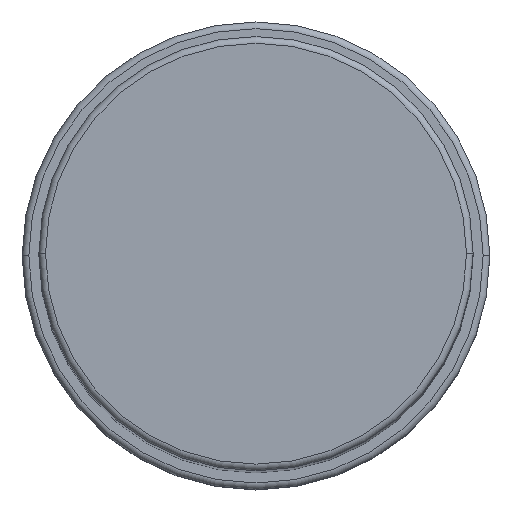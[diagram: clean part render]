
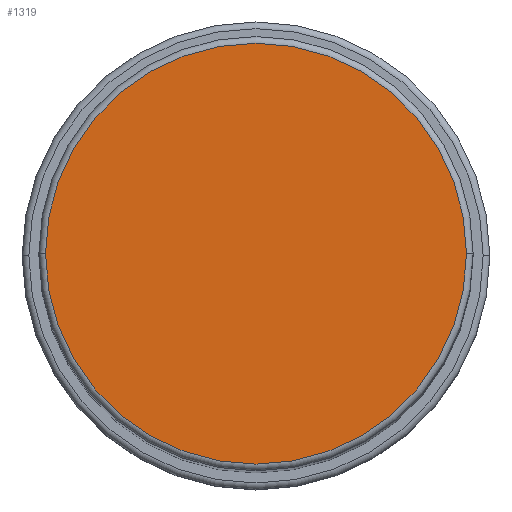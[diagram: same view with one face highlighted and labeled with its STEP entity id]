
A CAD part, top view. The second image highlights one B-rep face of the part: STEP entity #1319.
In plain terms, the highlighted planar face has unit normal (0, 0, 1).
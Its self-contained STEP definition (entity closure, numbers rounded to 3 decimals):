
#54 = CARTESIAN_POINT ( 'NONE',  ( 0., 0., 198. ) ) ;
#108 = FACE_OUTER_BOUND ( 'NONE', #803, .T. ) ;
#198 = CARTESIAN_POINT ( 'NONE',  ( -31.5, 0., 198. ) ) ;
#228 = DIRECTION ( 'NONE',  ( 1., 0., 0. ) ) ;
#240 = ORIENTED_EDGE ( 'NONE', *, *, #944, .T. ) ;
#254 = AXIS2_PLACEMENT_3D ( 'NONE', #581, #1673, #1394 ) ;
#292 = CIRCLE ( 'NONE', #667, 31.5 ) ;
#430 = DIRECTION ( 'NONE',  ( 1., 0., 0. ) ) ;
#445 = PLANE ( 'NONE',  #254 ) ;
#478 = DIRECTION ( 'NONE',  ( 0., 0., 1. ) ) ;
#581 = CARTESIAN_POINT ( 'NONE',  ( 0., 0., 198. ) ) ;
#667 = AXIS2_PLACEMENT_3D ( 'NONE', #1413, #478, #228 ) ;
#803 = EDGE_LOOP ( 'NONE', ( #1021, #240 ) ) ;
#944 = EDGE_CURVE ( 'NONE', #1333, #1104, #1101, .T. ) ;
#1021 = ORIENTED_EDGE ( 'NONE', *, *, #1677, .T. ) ;
#1092 = CARTESIAN_POINT ( 'NONE',  ( 31.5, 0., 198. ) ) ;
#1101 = CIRCLE ( 'NONE', #1285, 31.5 ) ;
#1104 = VERTEX_POINT ( 'NONE', #1092 ) ;
#1285 = AXIS2_PLACEMENT_3D ( 'NONE', #54, #1512, #430 ) ;
#1319 = ADVANCED_FACE ( 'NONE', ( #108 ), #445, .T. ) ;
#1333 = VERTEX_POINT ( 'NONE', #198 ) ;
#1394 = DIRECTION ( 'NONE',  ( 1., 0., 0. ) ) ;
#1413 = CARTESIAN_POINT ( 'NONE',  ( 0., 0., 198. ) ) ;
#1512 = DIRECTION ( 'NONE',  ( 0., 0., 1. ) ) ;
#1673 = DIRECTION ( 'NONE',  ( 0., 0., 1. ) ) ;
#1677 = EDGE_CURVE ( 'NONE', #1104, #1333, #292, .T. ) ;
